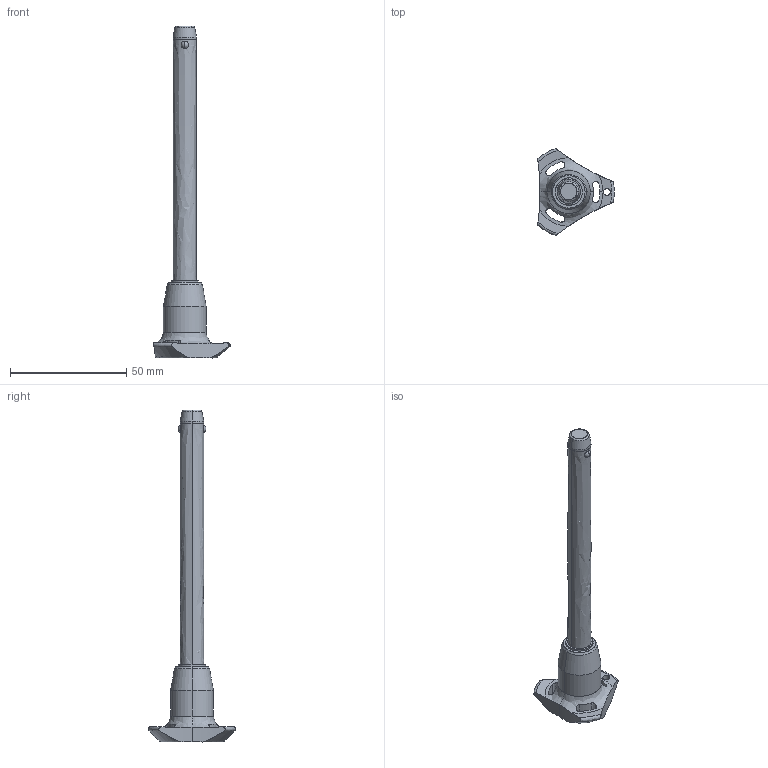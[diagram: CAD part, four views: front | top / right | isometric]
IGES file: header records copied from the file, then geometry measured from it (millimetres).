
Start section: SolidWorks IGES file using analytic representation for surfaces
Global section: file name: C:\Users\ianosborn\Desktop\QR1726_v2\QR1726_v2_20251115_IGES\QR1726.M10-100-T.igs; native system: SolidWorks 2019; preprocessor: SolidWorks 2019; author: IanOsborn; date: 251113.111246; units: millimetre
Bounding box: 33 x 37.51 x 142.9 mm (x, y, z)
Surface area: 7235 mm2 (no closed solid volume)
Topology: 0 solids, 0 shells, 68 faces, 1352 edges, 1345 vertices
Faces by surface type: revolution 52, bspline 16
